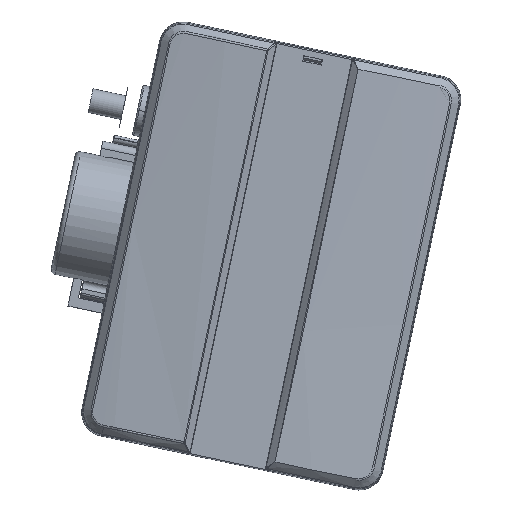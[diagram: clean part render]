
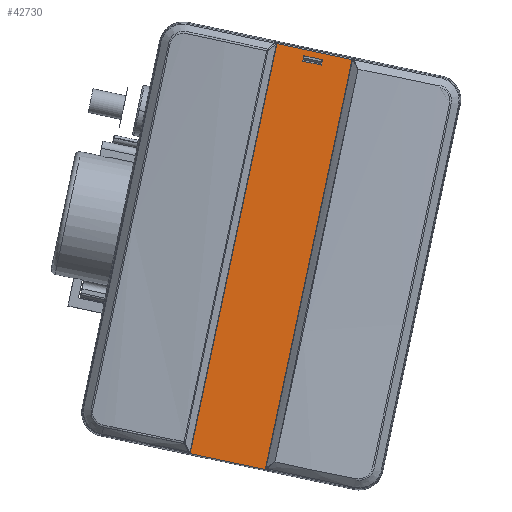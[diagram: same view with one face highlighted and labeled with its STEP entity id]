
A CAD part, front view. The second image highlights one B-rep face of the part: STEP entity #42730.
In plain terms, the highlighted planar face has unit normal (0, -1, 0).
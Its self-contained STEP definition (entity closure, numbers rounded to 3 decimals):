
#352 = CARTESIAN_POINT ( 'NONE',  ( 18.251, -14.418, -82.839 ) ) ;
#1205 = DIRECTION ( 'NONE',  ( 0.207, 0., 0.978 ) ) ;
#3232 = CARTESIAN_POINT ( 'NONE',  ( 0.248, -14.418, -79.035 ) ) ;
#4486 = VERTEX_POINT ( 'NONE', #18980 ) ;
#5307 = VERTEX_POINT ( 'NONE', #18762 ) ;
#5857 = VERTEX_POINT ( 'NONE', #47265 ) ;
#7361 = VECTOR ( 'NONE', #23787, 1000. ) ;
#8540 = VECTOR ( 'NONE', #18400, 1000. ) ;
#9234 = LINE ( 'NONE', #52932, #7361 ) ;
#9415 = CARTESIAN_POINT ( 'NONE',  ( 26.205, -14.418, -41.327 ) ) ;
#10242 = PLANE ( 'NONE',  #37751 ) ;
#10589 = VERTEX_POINT ( 'NONE', #47284 ) ;
#11219 = LINE ( 'NONE', #9415, #40525 ) ;
#12230 = DIRECTION ( 'NONE',  ( 0.207, 0., 0.978 ) ) ;
#13112 = VERTEX_POINT ( 'NONE', #53115 ) ;
#13510 = VERTEX_POINT ( 'NONE', #352 ) ;
#14585 = VERTEX_POINT ( 'NONE', #70168 ) ;
#14678 = LINE ( 'NONE', #35582, #44077 ) ;
#14875 = VERTEX_POINT ( 'NONE', #50724 ) ;
#15138 = DIRECTION ( 'NONE',  ( -0.207, 0., -0.978 ) ) ;
#15350 = CARTESIAN_POINT ( 'NONE',  ( 24.065, -14.418, -0.186 ) ) ;
#15942 = DIRECTION ( 'NONE',  ( 0., -1., 0. ) ) ;
#16147 = VERTEX_POINT ( 'NONE', #20311 ) ;
#17117 = EDGE_CURVE ( 'NONE', #16147, #56996, #23922, .T. ) ;
#18207 = VECTOR ( 'NONE', #47263, 1000. ) ;
#18400 = DIRECTION ( 'NONE',  ( 0.978, 0., -0.207 ) ) ;
#18762 = CARTESIAN_POINT ( 'NONE',  ( 17.468, -14.418, -82.674 ) ) ;
#18980 = CARTESIAN_POINT ( 'NONE',  ( 17.682, -14.418, -85.53 ) ) ;
#19300 = VECTOR ( 'NONE', #46561, 1000. ) ;
#20311 = CARTESIAN_POINT ( 'NONE',  ( 28.217, -14.418, 0.113 ) ) ;
#22715 = EDGE_CURVE ( 'NONE', #27928, #13112, #31304, .T. ) ;
#23787 = DIRECTION ( 'NONE',  ( -0.207, 0., -0.978 ) ) ;
#23815 = LINE ( 'NONE', #3232, #39554 ) ;
#23922 = LINE ( 'NONE', #46968, #19300 ) ;
#27928 = VERTEX_POINT ( 'NONE', #15350 ) ;
#28428 = LINE ( 'NONE', #70475, #57420 ) ;
#29239 = CARTESIAN_POINT ( 'NONE',  ( 26.022, -14.418, -0.599 ) ) ;
#29854 = DIRECTION ( 'NONE',  ( 0.978, 0., -0.207 ) ) ;
#30284 = LINE ( 'NONE', #41402, #18207 ) ;
#31304 = LINE ( 'NONE', #29239, #32734 ) ;
#31574 = ORIENTED_EDGE ( 'NONE', *, *, #65451, .F. ) ;
#31797 = ORIENTED_EDGE ( 'NONE', *, *, #65559, .F. ) ;
#32433 = ORIENTED_EDGE ( 'NONE', *, *, #63162, .F. ) ;
#32734 = VECTOR ( 'NONE', #29854, 1000. ) ;
#33152 = ORIENTED_EDGE ( 'NONE', *, *, #62601, .F. ) ;
#33547 = CARTESIAN_POINT ( 'NONE',  ( 17.314, -14.418, 8.206 ) ) ;
#34410 = ORIENTED_EDGE ( 'NONE', *, *, #63057, .F. ) ;
#34493 = ORIENTED_EDGE ( 'NONE', *, *, #63036, .F. ) ;
#34568 = EDGE_LOOP ( 'NONE', ( #61228, #60501, #60365, #59965 ) ) ;
#35098 = ORIENTED_EDGE ( 'NONE', *, *, #57434, .F. ) ;
#35582 = CARTESIAN_POINT ( 'NONE',  ( 9.377, -14.418, -37.77 ) ) ;
#35969 = ORIENTED_EDGE ( 'NONE', *, *, #56924, .F. ) ;
#35992 = CARTESIAN_POINT ( 'NONE',  ( 8.485, -14.418, -83.587 ) ) ;
#36697 = LINE ( 'NONE', #35992, #65399 ) ;
#37751 = AXIS2_PLACEMENT_3D ( 'NONE', #33547, #15942, #56711 ) ;
#37883 = VECTOR ( 'NONE', #64897, 1000. ) ;
#39011 = CARTESIAN_POINT ( 'NONE',  ( 18.114, -14.418, 3.577 ) ) ;
#39554 = VECTOR ( 'NONE', #61214, 1000. ) ;
#40525 = VECTOR ( 'NONE', #15138, 1000. ) ;
#41402 = CARTESIAN_POINT ( 'NONE',  ( 26.529, -14.418, 1.799 ) ) ;
#42154 = CARTESIAN_POINT ( 'NONE',  ( 28.098, -14.418, -0.45 ) ) ;
#42730 = ADVANCED_FACE ( 'NONE', ( #73466, #58134 ), #10242, .T. ) ;
#43341 = DIRECTION ( 'NONE',  ( -0.207, 0., -0.978 ) ) ;
#43790 = VERTEX_POINT ( 'NONE', #39011 ) ;
#44077 = VECTOR ( 'NONE', #12230, 1000. ) ;
#46561 = DIRECTION ( 'NONE',  ( -0.978, 0., 0.207 ) ) ;
#46683 = VECTOR ( 'NONE', #43341, 1000. ) ;
#46968 = CARTESIAN_POINT ( 'NONE',  ( 26.26, -14.418, 0.526 ) ) ;
#47263 = DIRECTION ( 'NONE',  ( 0.978, 0., -0.207 ) ) ;
#47265 = CARTESIAN_POINT ( 'NONE',  ( -0.712, -14.418, -81.643 ) ) ;
#47284 = CARTESIAN_POINT ( 'NONE',  ( 34.943, -14.418, 0.021 ) ) ;
#48254 = CARTESIAN_POINT ( 'NONE',  ( 24.303, -14.418, 0.94 ) ) ;
#50724 = CARTESIAN_POINT ( 'NONE',  ( 0.639, -14.418, -79.118 ) ) ;
#52932 = CARTESIAN_POINT ( 'NONE',  ( 17.966, -14.418, -84.185 ) ) ;
#53115 = CARTESIAN_POINT ( 'NONE',  ( 27.979, -14.418, -1.013 ) ) ;
#54976 = LINE ( 'NONE', #59113, #8540 ) ;
#56711 = DIRECTION ( 'NONE',  ( -0.207, 0., -0.978 ) ) ;
#56924 = EDGE_CURVE ( 'NONE', #5307, #13510, #54976, .T. ) ;
#56935 = EDGE_CURVE ( 'NONE', #13112, #16147, #68372, .T. ) ;
#56996 = VERTEX_POINT ( 'NONE', #48254 ) ;
#57420 = VECTOR ( 'NONE', #1205, 1000. ) ;
#57434 = EDGE_CURVE ( 'NONE', #10589, #5307, #11219, .T. ) ;
#58134 = FACE_OUTER_BOUND ( 'NONE', #72649, .T. ) ;
#59113 = CARTESIAN_POINT ( 'NONE',  ( 17.859, -14.418, -82.757 ) ) ;
#59965 = ORIENTED_EDGE ( 'NONE', *, *, #56935, .F. ) ;
#59995 = LINE ( 'NONE', #71400, #46683 ) ;
#60365 = ORIENTED_EDGE ( 'NONE', *, *, #17117, .F. ) ;
#60501 = ORIENTED_EDGE ( 'NONE', *, *, #66035, .F. ) ;
#61214 = DIRECTION ( 'NONE',  ( 0.978, 0., -0.207 ) ) ;
#61228 = ORIENTED_EDGE ( 'NONE', *, *, #22715, .F. ) ;
#62601 = EDGE_CURVE ( 'NONE', #14585, #14875, #23815, .T. ) ;
#63036 = EDGE_CURVE ( 'NONE', #43790, #10589, #30284, .T. ) ;
#63057 = EDGE_CURVE ( 'NONE', #14875, #43790, #14678, .T. ) ;
#63162 = EDGE_CURVE ( 'NONE', #5857, #14585, #28428, .T. ) ;
#64897 = DIRECTION ( 'NONE',  ( 0.207, 0., 0.978 ) ) ;
#65399 = VECTOR ( 'NONE', #70382, 1000. ) ;
#65451 = EDGE_CURVE ( 'NONE', #13510, #4486, #9234, .T. ) ;
#65559 = EDGE_CURVE ( 'NONE', #4486, #5857, #36697, .T. ) ;
#66035 = EDGE_CURVE ( 'NONE', #56996, #27928, #59995, .T. ) ;
#68372 = LINE ( 'NONE', #42154, #37883 ) ;
#70168 = CARTESIAN_POINT ( 'NONE',  ( -0.143, -14.418, -78.952 ) ) ;
#70382 = DIRECTION ( 'NONE',  ( -0.978, 0., 0.207 ) ) ;
#70475 = CARTESIAN_POINT ( 'NONE',  ( -0.428, -14.418, -80.298 ) ) ;
#71400 = CARTESIAN_POINT ( 'NONE',  ( 24.184, -14.418, 0.377 ) ) ;
#72649 = EDGE_LOOP ( 'NONE', ( #35969, #35098, #34493, #34410, #33152, #32433, #31797, #31574 ) ) ;
#73466 = FACE_BOUND ( 'NONE', #34568, .T. ) ;
